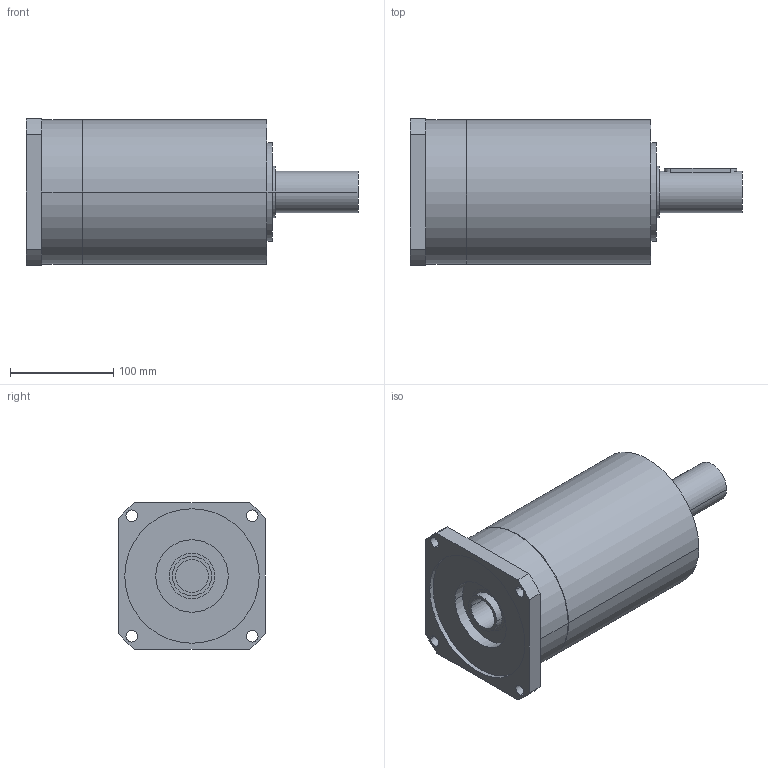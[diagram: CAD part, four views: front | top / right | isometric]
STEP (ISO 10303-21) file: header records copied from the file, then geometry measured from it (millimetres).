
FILE_DESCRIPTION(('CoCreate Modeling STEP Export'),'2;1');
FILE_NAME('GPR150_ig-9-12-16-20-28-35_40_B14_32_P05.stp','2014-08-19T17:03:59',(''),(''),'CoCreate Modeling STEP processor for AP214 (Solid Model)','CoCreate Modeling 16.00C 25-Feb-2009 (C) Parametric Technology GmbH','');
FILE_SCHEMA(('AUTOMOTIVE_DESIGN { 1 0 10303 214 1 1 1 1 }'));
Length unit declared in the file: millimetre
Products named in the file (2): GPR150_ig-9-12-16-20-28-35_40_B14_32_P05
Assembly tree (1 placements, depth 2):
  GPR150_ig-9-12-16-20-28-35_40_B14_32_P05
    GPR150_ig-9-12-16-20-28-35_40_B14_32_P05
Bounding box: 321 x 142 x 142 mm (x, y, z)
Volume: 3623001.1 mm3; surface area: 175423.3 mm2
Topology: 1 solids, 1 shells, 73 faces, 195 edges, 137 vertices
Faces by surface type: cylinder 44, plane 23, cone 6
Entity records: 2033 total; most frequent: CARTESIAN_POINT 395, ORIENTED_EDGE 386, DIRECTION 272, EDGE_CURVE 193, VERTEX_POINT 137, AXIS2_PLACEMENT_3D 102, EDGE_LOOP 96, FACE_OUTER_BOUND 73
